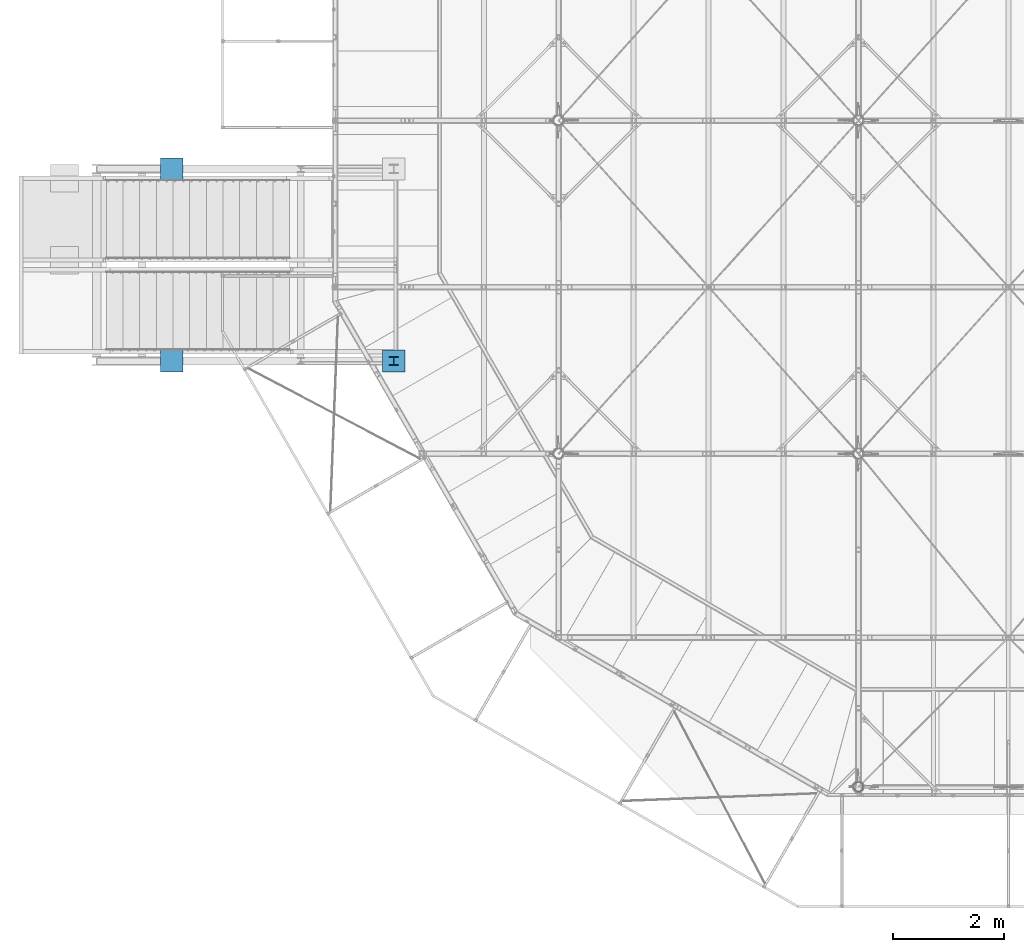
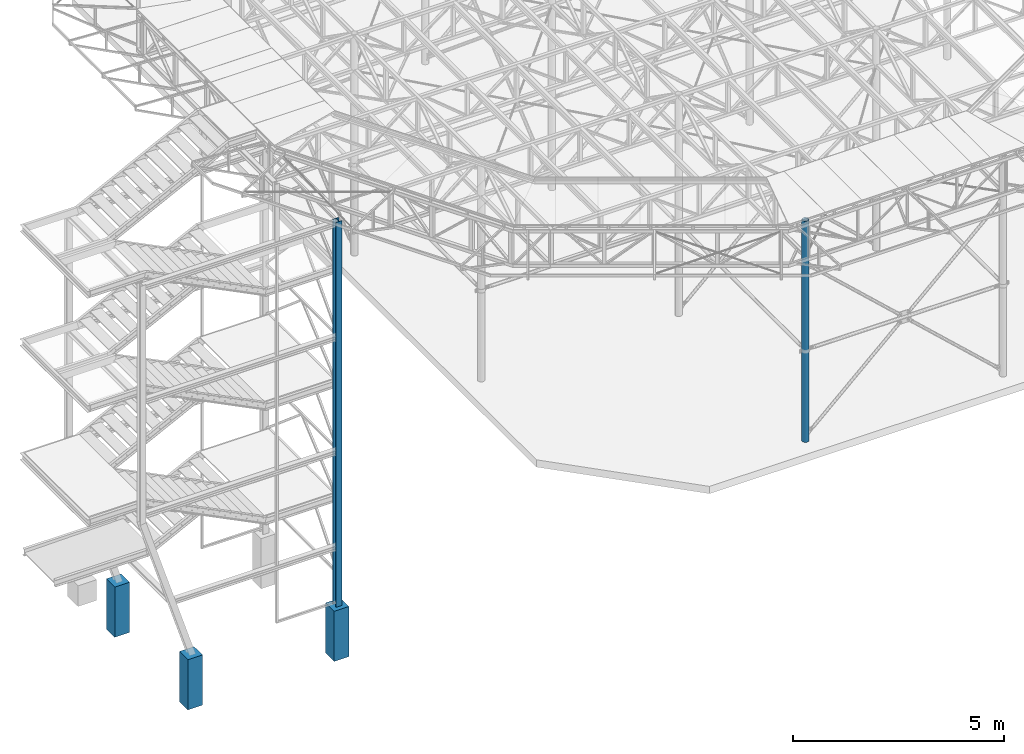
# One storey, part 1 of 132: 5 columns, 5 elements without a shape of their own.
"""IFC2X3 building model written with IfcOpenShell, lengths in millimetres."""

from ifc_helpers import new_model, si_unit, frame, origin_with_axes, origin_2d_with_axis, place, context, subcontext, project, spatial, rectangle, hollow_circle, i_section, extrude, material, type_object, element, aggregate, save


model = new_model("IFC2X3")

# Units and contexts
model_context = context("Model", 3, precision=1e-05, world=origin_with_axes())
body_context = subcontext(model_context, "Body", "Model", "MODEL_VIEW")
ifc_project = project(units=[si_unit("LENGTHUNIT", "METRE", prefix="MILLI"), si_unit("AREAUNIT", "SQUARE_METRE"), si_unit("VOLUMEUNIT", "CUBIC_METRE"), si_unit("MASSUNIT", "GRAM", prefix="KILO"), si_unit("TIMEUNIT", "SECOND"), si_unit("PLANEANGLEUNIT", "RADIAN"), si_unit("SOLIDANGLEUNIT", "STERADIAN"), si_unit("THERMODYNAMICTEMPERATUREUNIT", "DEGREE_CELSIUS"), si_unit("LUMINOUSINTENSITYUNIT", "LUMEN")], contexts=[model_context])

# Site, building, storey
site_placement = place(None, origin_with_axes())
site = spatial("IfcSite", under=ifc_project, at=site_placement, Name="Budowa", CompositionType="ELEMENT")
building_placement = place(site_placement, origin_with_axes())
building = spatial("IfcBuilding", under=site, at=building_placement, Name="Undefined", CompositionType="ELEMENT")
storey_placement = place(building_placement, origin_with_axes())
storey = spatial("IfcBuildingStorey", under=building, at=storey_placement, Name="Undefined", CompositionType="ELEMENT", Elevation=0.0)

# Assembly, column
assembly_1_placement = place(storey_placement, origin_with_axes())
assembly_1 = element("IfcElementAssembly", 1, at=assembly_1_placement, inside=storey, Name="COLUMN", AssemblyPlace="NOTDEFINED", PredefinedType="REINFORCEMENT_UNIT")
ifc_material_1 = material(Name="CONCRETE/C25/30")
column_type_1 = type_object("IfcColumnType", Name="400*400", PredefinedType="NOTDEFINED")
column_1_placement = place(assembly_1_placement, frame((-2945.00000008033, 11130.000000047, -430.0), z_axis=(0.0, 0.0, 1.0), x_axis=(-1.0, 0.0, 0.0)))
column_1 = element("IfcColumn", 2, at=column_1_placement, type_object=column_type_1, material=ifc_material_1, Name="COLUMN", ObjectType="400*400", context=body_context, shape_type="SweptSolid", body=[
    extrude(rectangle(XDim=400.0, YDim=400.0, at=origin_2d_with_axis()), frame((0.0, 0.0, 1450.0), z_axis=(0.0, 0.0, -1.0), x_axis=(0.0, 1.0, 0.0)), (0.0, 0.0, 1.0), 1450.0),
])
aggregate(assembly_1, [column_1])

assembly_2_placement = place(storey_placement, origin_with_axes())
assembly_2 = element("IfcElementAssembly", 3, at=assembly_2_placement, inside=storey, Name="COLUMN", AssemblyPlace="NOTDEFINED", PredefinedType="REINFORCEMENT_UNIT")
column_2_placement = place(assembly_2_placement, frame((-2945.00000008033, 7670.00000004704, -430.0), z_axis=(0.0, 0.0, 1.0), x_axis=(-1.0, 0.0, 0.0)))
column_2 = element("IfcColumn", 4, at=column_2_placement, type_object=column_type_1, material=ifc_material_1, Name="COLUMN", ObjectType="400*400", context=body_context, shape_type="SweptSolid", body=[
    extrude(rectangle(XDim=400.0, YDim=400.0, at=origin_2d_with_axis()), frame((0.0, 0.0, 1450.0), z_axis=(0.0, 0.0, -1.0), x_axis=(0.0, 1.0, 0.0)), (0.0, 0.0, 1.0), 1450.0),
])
aggregate(assembly_2, [column_2])

assembly_3_placement = place(storey_placement, origin_with_axes())
assembly_3 = element("IfcElementAssembly", 5, at=assembly_3_placement, inside=storey, Name="COLUMN", AssemblyPlace="NOTDEFINED", PredefinedType="REINFORCEMENT_UNIT")
column_3_placement = place(assembly_3_placement, frame((1054.99999991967, 7670.00000004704, -430.0), z_axis=(0.0, 0.0, 1.0), x_axis=(-1.0, 0.0, 0.0)))
column_3 = element("IfcColumn", 6, at=column_3_placement, type_object=column_type_1, material=ifc_material_1, Name="COLUMN", ObjectType="400*400", context=body_context, shape_type="SweptSolid", body=[
    extrude(rectangle(XDim=400.0, YDim=400.0, at=origin_2d_with_axis()), frame((0.0, 0.0, 1450.0), z_axis=(0.0, 0.0, -1.0), x_axis=(0.0, 1.0, 0.0)), (0.0, 0.0, 1.0), 1450.0),
])
aggregate(assembly_3, [column_3])

assembly_4_placement = place(storey_placement, origin_with_axes())
assembly_4 = element("IfcElementAssembly", 7, at=assembly_4_placement, inside=storey, Name="Steel Assembly", AssemblyPlace="NOTDEFINED", PredefinedType="RIGID_FRAME")
ifc_material_2 = material(Name="STEEL/S235")
column_type_2 = type_object("IfcColumnType", Name="HEB160", PredefinedType="NOTDEFINED")
column_4_placement = place(assembly_4_placement, frame((1054.99999991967, 7670.00000004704, 1020.0), z_axis=(0.0, 0.0, 1.0), x_axis=(0.0, 1.0, 0.0)))
column_4 = element("IfcColumn", 8, at=column_4_placement, type_object=column_type_2, material=ifc_material_2, Name="COLUMN", ObjectType="HEB160", context=body_context, shape_type="SweptSolid", body=[
    extrude(i_section(OverallWidth=160.0, OverallDepth=160.0, WebThickness=8.0, FlangeThickness=13.0, FilletRadius=15.0, at=origin_2d_with_axis()), frame((0.0, 0.0, 11120.0), z_axis=(0.0, 0.0, -1.0), x_axis=(0.0, 1.0, 0.0)), (0.0, 0.0, 1.0), 11120.0),
])
aggregate(assembly_4, [column_4])

assembly_5_placement = place(storey_placement, origin_with_axes())
assembly_5 = element("IfcElementAssembly", 9, at=assembly_5_placement, inside=storey, Name="Steel Assembly", AssemblyPlace="NOTDEFINED", PredefinedType="RIGID_FRAME")
column_type_3 = type_object("IfcColumnType", Name="CHS177.8*12.5", PredefinedType="NOTDEFINED")
column_5_placement = place(assembly_5_placement, frame((9425.0, 0.0, 7491.0), z_axis=(0.0, 0.0, 1.0), x_axis=(-1.0, 0.0, 0.0)))
column_5 = element("IfcColumn", 10, at=column_5_placement, type_object=column_type_3, material=ifc_material_2, Name="COLUMN", ObjectType="CHS177.8*12.5", context=body_context, shape_type="SweptSolid", body=[
    extrude(hollow_circle(Radius=88.9, WallThickness=12.5, at=origin_2d_with_axis()), frame((0.0, 0.0, 6389.0), z_axis=(0.0, 0.0, -1.0), x_axis=(0.0, 1.0, 0.0)), (0.0, 0.0, 1.0), 6389.0),
])
aggregate(assembly_5, [column_5])

save(model, "model.ifc")
